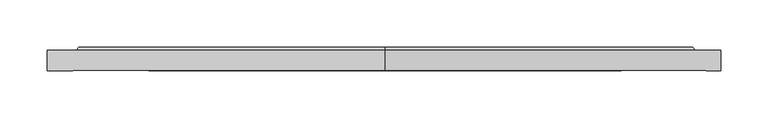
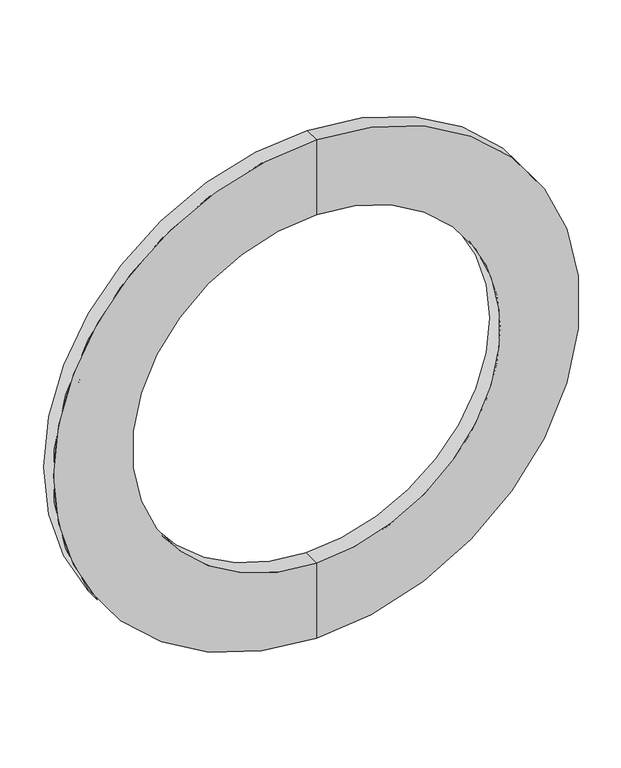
"""IFC4 building model written with IfcOpenShell, lengths in millimetres: pipe fitting geometry, Фланец : Фланец."""

from ifc_helpers import new_model, si_unit, frame, origin, place, context, project, spatial, polyline, circle_curve, source, transform, mapped, element, save
from ifc_brep_helpers import plane_surface, cylinder_surface, revolved_surface, advanced_brep


def pipe_fitting_2007be06(model_context):
    return source(origin(), model_context, "Body", "AdvancedBrep", [
        advanced_brep(
        [(0.0, 0.0, -357.5), (0.0, 0.0, 357.5), (0.0, 21.6, 357.5), (0.0, 21.6, -357.5), (0.0, 0.0, -250.0), (0.0, 0.0, 250.0), (0.0, 24.6, -250.0), (0.0, 24.6, 250.0), (0.0, 24.6, -326.0), (0.0, 24.6, 326.0), (0.0, 21.6, -328.5), (0.0, 21.6, 328.5)],
        [
            (0, 1, circle_curve(frame((0.0, 0.0, 0.0), z_axis=(0.0, 1.0, 0.0), x_axis=(0.0, 0.0, 1.0)), 357.5)),
            (1, 2),
            (2, 3, circle_curve(frame((0.0, 21.6, 0.0), z_axis=(0.0, -1.0, 0.0), x_axis=(0.0, 0.0, 1.0)), 357.5)),
            (3, 0),
            (1, 0, circle_curve(frame((0.0, 0.0, 0.0), z_axis=(0.0, 1.0, 0.0), x_axis=(0.0, 0.0, 1.0)), 357.5)),
            (3, 2, circle_curve(frame((0.0, 21.6, 0.0), z_axis=(0.0, -1.0, 0.0), x_axis=(0.0, 0.0, 1.0)), 357.5)),
            (4, 5, circle_curve(frame((0.0, 0.0, 0.0), z_axis=(0.0, 1.0, 0.0), x_axis=(0.0, 0.0, 1.0)), 250.0)),
            (5, 1),
            (0, 4),
            (5, 4, circle_curve(frame((0.0, 0.0, 0.0), z_axis=(0.0, 1.0, 0.0), x_axis=(0.0, 0.0, 1.0)), 250.0)),
            (6, 7, circle_curve(frame((0.0, 24.6, 0.0), z_axis=(0.0, 1.0, 0.0), x_axis=(0.0, 0.0, 1.0)), 250.0)),
            (7, 5),
            (4, 6),
            (7, 6, circle_curve(frame((0.0, 24.6, 0.0), z_axis=(0.0, 1.0, 0.0), x_axis=(0.0, 0.0, 1.0)), 250.0)),
            (8, 9, circle_curve(frame((0.0, 24.6, 0.0), z_axis=(0.0, 1.0, 0.0), x_axis=(0.0, 0.0, 1.0)), 326.0)),
            (9, 7),
            (6, 8),
            (9, 8, circle_curve(frame((0.0, 24.6, 0.0), z_axis=(0.0, 1.0, 0.0), x_axis=(0.0, 0.0, 1.0)), 326.0)),
            (10, 11, circle_curve(frame((0.0, 21.6, 0.0), z_axis=(0.0, 1.0, 0.0), x_axis=(0.0, 0.0, 1.0)), 328.5)),
            (11, 9),
            (8, 10),
            (11, 10, circle_curve(frame((0.0, 21.6, 0.0), z_axis=(0.0, 1.0, 0.0), x_axis=(0.0, 0.0, 1.0)), 328.5)),
            (2, 11),
            (10, 3),
        ],
        [
            cylinder_surface(frame((0.0, -60.0, 0.0), z_axis=(0.0, -1.0, 0.0), x_axis=(0.0, 0.0, 1.0)), 357.5),
            plane_surface(frame((0.0, 0.0, 0.0), z_axis=(0.0, -1.0, 0.0), x_axis=(0.0, 0.0, 1.0))),
            revolved_surface(polyline([(0.0, 0.0, 250.0), (0.0, 24.599999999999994, 250.0)]), (0.0, -60.0, 0.0), (0.0, -1.0, 0.0)),
            plane_surface(frame((0.0, 24.6, 0.0), z_axis=(0.0, 1.0, 0.0), x_axis=(0.0, 0.0, 1.0))),
            revolved_surface(polyline([(0.0, 24.6, 326.0), (0.0, 21.6, 328.5)]), (0.0, -60.0, 0.0), (0.0, -1.0, 0.0)),
            plane_surface(frame((0.0, 21.6, 0.0), z_axis=(0.0, 1.0, 0.0), x_axis=(0.0, 0.0, 1.0))),
        ],
        [
            (0, [[1, 2, 3, 4]]),
            (0, [[5, -4, 6, -2]]),
            (1, [[7, 8, -1, 9]]),
            (1, [[10, -9, -5, -8]]),
            (2, [[11, 12, -7, 13]]),
            (2, [[14, -13, -10, -12]]),
            (3, [[15, 16, -11, 17]]),
            (3, [[18, -17, -14, -16]]),
            (4, [[19, 20, -15, 21]]),
            (4, [[22, -21, -18, -20]]),
            (5, [[-3, 23, -19, 24]]),
            (5, [[-6, -24, -22, -23]]),
        ],
    ),
    ])


if __name__ == "__main__":
    model = new_model("IFC4")
    model_context = context("Model", 3, world=origin())
    ifc_project = project(units=[si_unit("LENGTHUNIT", "METRE", prefix="MILLI")], contexts=[model_context])
    site = spatial("IfcSite", under=ifc_project)
    building = spatial("IfcBuilding", under=site)
    placement = place(None, origin())
    pipe_fitting_shape = pipe_fitting_2007be06(model_context)
    element("IfcPipeFitting", 1, ObjectType="Фланец : Фланец", at=placement, inside=building, context=model_context, shape_type="MappedRepresentation", body=[
        mapped(pipe_fitting_shape, transform((0.0, 0.0, 0.0), x_axis=(1.0, 0.0, 0.0), y_axis=(0.0, 1.0, 0.0), z_axis=(0.0, 0.0, 1.0))),
    ])
    save(model, "model.ifc")
